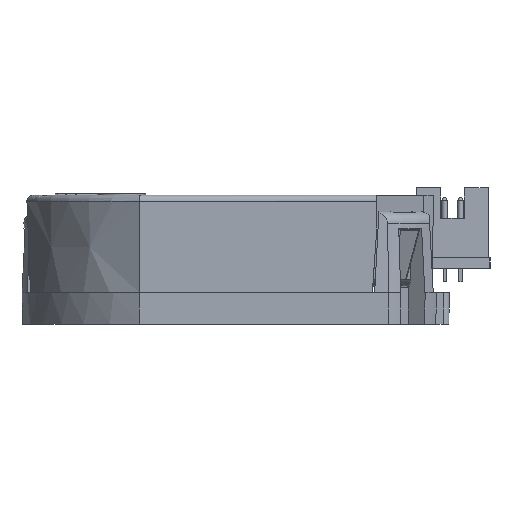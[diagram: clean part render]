
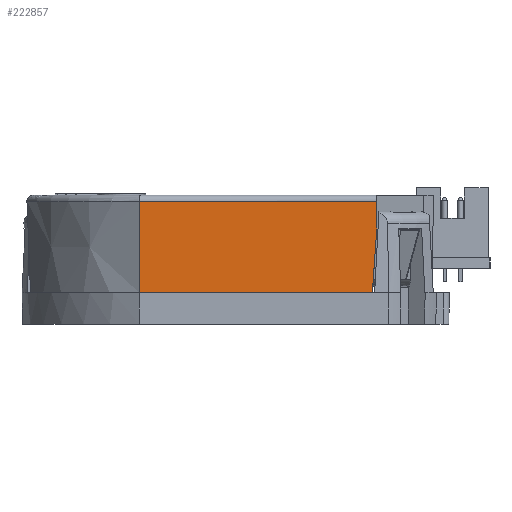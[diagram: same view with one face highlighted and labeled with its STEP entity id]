
A CAD part, left-side view. The second image highlights one B-rep face of the part: STEP entity #222857.
In plain terms, the highlighted planar face has unit normal (-1, 0, -0.018) as drawn and (1, 0, 0.017) by its records, which use the part's own axes.
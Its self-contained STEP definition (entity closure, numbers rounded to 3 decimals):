
#5545 = VERTEX_POINT ( 'NONE', #223684 ) ;
#5721 = DIRECTION ( 'NONE',  ( 0.017, 0., -1. ) ) ;
#13100 = B_SPLINE_CURVE_WITH_KNOTS ( 'NONE', 3,
 ( #230853, #214497, #76289, #251364 ),
 .UNSPECIFIED., .F., .F.,
 ( 4, 4 ),
 ( 0., 0.007 ),
 .UNSPECIFIED. ) ;
#14773 = EDGE_CURVE ( 'NONE', #147064, #42001, #126337, .T. ) ;
#18722 = LINE ( 'NONE', #93006, #58596 ) ;
#25192 = CARTESIAN_POINT ( 'NONE',  ( 14.164, 0., 6.5 ) ) ;
#25397 = VECTOR ( 'NONE', #173779, 1000. ) ;
#29148 = EDGE_CURVE ( 'NONE', #5545, #147064, #77437, .T. ) ;
#36346 = CARTESIAN_POINT ( 'NONE',  ( 14.291, 5.978, -0.791 ) ) ;
#37353 = FACE_OUTER_BOUND ( 'NONE', #164260, .T. ) ;
#40661 = AXIS2_PLACEMENT_3D ( 'NONE', #201403, #199709, #5721 ) ;
#42001 = VERTEX_POINT ( 'NONE', #215728 ) ;
#52376 = ORIENTED_EDGE ( 'NONE', *, *, #14773, .F. ) ;
#52637 = VERTEX_POINT ( 'NONE', #36346 ) ;
#58596 = VECTOR ( 'NONE', #69841, 1000. ) ;
#62842 = CARTESIAN_POINT ( 'NONE',  ( 14.291, -13.005, -0.791 ) ) ;
#66114 = ORIENTED_EDGE ( 'NONE', *, *, #223128, .F. ) ;
#69841 = DIRECTION ( 'NONE',  ( -0.017, 0., 1. ) ) ;
#75098 = CARTESIAN_POINT ( 'NONE',  ( 14.164, -12.648, 6.5 ) ) ;
#76289 = CARTESIAN_POINT ( 'NONE',  ( 14.249, 5.97, 1.639 ) ) ;
#77437 = LINE ( 'NONE', #212263, #25397 ) ;
#81201 = PLANE ( 'NONE',  #40661 ) ;
#93006 = CARTESIAN_POINT ( 'NONE',  ( 14.3, -13.005, -1.3 ) ) ;
#96365 = CARTESIAN_POINT ( 'NONE',  ( 14.291, 5.98, -0.791 ) ) ;
#106139 = ORIENTED_EDGE ( 'NONE', *, *, #29148, .F. ) ;
#117345 = EDGE_CURVE ( 'NONE', #179714, #52637, #207421, .T. ) ;
#126337 = LINE ( 'NONE', #25192, #196949 ) ;
#145915 = ORIENTED_EDGE ( 'NONE', *, *, #157785, .F. ) ;
#147064 = VERTEX_POINT ( 'NONE', #75098 ) ;
#157785 = EDGE_CURVE ( 'NONE', #42001, #52637, #13100, .T. ) ;
#164260 = EDGE_LOOP ( 'NONE', ( #66114, #237723, #145915, #52376, #106139 ) ) ;
#173779 = DIRECTION ( 'NONE',  ( -0.017, 0.07, 0.997 ) ) ;
#179714 = VERTEX_POINT ( 'NONE', #62842 ) ;
#196949 = VECTOR ( 'NONE', #237121, 1000. ) ;
#199709 = DIRECTION ( 'NONE',  ( 1., 0., 0.017 ) ) ;
#201341 = VECTOR ( 'NONE', #236195, 1000. ) ;
#201403 = CARTESIAN_POINT ( 'NONE',  ( 14.3, 0., -1.3 ) ) ;
#207421 = LINE ( 'NONE', #96365, #201341 ) ;
#212263 = CARTESIAN_POINT ( 'NONE',  ( 14.284, -13.13, -0.382 ) ) ;
#214497 = CARTESIAN_POINT ( 'NONE',  ( 14.206, 5.961, 4.07 ) ) ;
#215728 = CARTESIAN_POINT ( 'NONE',  ( 14.164, 5.953, 6.5 ) ) ;
#222857 = ADVANCED_FACE ( 'NONE', ( #37353 ), #81201, .T. ) ;
#223128 = EDGE_CURVE ( 'NONE', #179714, #5545, #18722, .T. ) ;
#223684 = CARTESIAN_POINT ( 'NONE',  ( 14.253, -13.005, 1.4 ) ) ;
#230853 = CARTESIAN_POINT ( 'NONE',  ( 14.164, 5.953, 6.5 ) ) ;
#236195 = DIRECTION ( 'NONE',  ( 0., 1., 0. ) ) ;
#237121 = DIRECTION ( 'NONE',  ( 0., 1., 0. ) ) ;
#237723 = ORIENTED_EDGE ( 'NONE', *, *, #117345, .T. ) ;
#251364 = CARTESIAN_POINT ( 'NONE',  ( 14.291, 5.978, -0.791 ) ) ;
